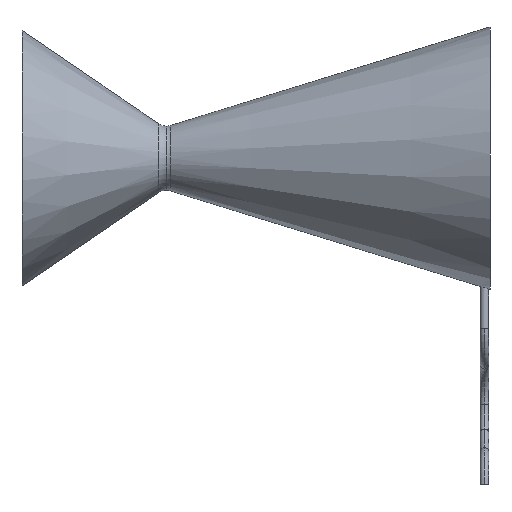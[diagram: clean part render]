
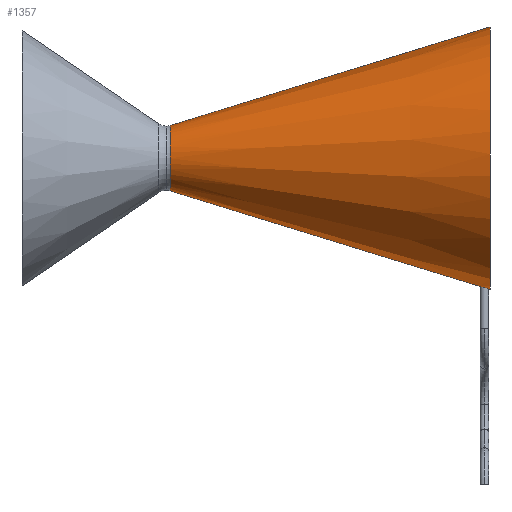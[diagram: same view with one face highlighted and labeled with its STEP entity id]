
A CAD part, left-side view. The second image highlights one B-rep face of the part: STEP entity #1357.
In plain terms, the highlighted conical face has half-angle 17.121 degrees and reference radius 92.5 mm.
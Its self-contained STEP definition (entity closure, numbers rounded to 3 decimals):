
#22 = ORIENTED_EDGE ( 'NONE', *, *, #296, .T. ) ;
#31 = AXIS2_PLACEMENT_3D ( 'NONE', #2132, #2148, #1976 ) ;
#32 = EDGE_LOOP ( 'NONE', ( #1075, #824, #908, #2122, #840, #22, #2149 ) ) ;
#73 = CARTESIAN_POINT ( 'NONE',  ( -4.061, 1.495, -91.95 ) ) ;
#97 = CARTESIAN_POINT ( 'NONE',  ( -3.805, 5.262, -90.799 ) ) ;
#113 = CARTESIAN_POINT ( 'NONE',  ( -4., 4., -91.18 ) ) ;
#118 = CARTESIAN_POINT ( 'NONE',  ( -4.661, 0.509, -92.226 ) ) ;
#122 = CARTESIAN_POINT ( 'NONE',  ( 0., 225.393, 23.069 ) ) ;
#241 = VERTEX_POINT ( 'NONE', #1912 ) ;
#277 = CARTESIAN_POINT ( 'NONE',  ( -5.097, 0.21, -92.295 ) ) ;
#296 = EDGE_CURVE ( 'NONE', #1125, #804, #2142, .T. ) ;
#317 = EDGE_CURVE ( 'NONE', #1125, #241, #2058, .T. ) ;
#349 = LINE ( 'NONE', #1606, #1016 ) ;
#397 = CARTESIAN_POINT ( 'NONE',  ( -4., 1.871, -91.836 ) ) ;
#407 = CARTESIAN_POINT ( 'NONE',  ( -4.194, 1.131, -92.056 ) ) ;
#446 = CARTESIAN_POINT ( 'NONE',  ( -4.395, 0.8, -92.149 ) ) ;
#454 = EDGE_CURVE ( 'NONE', #1677, #804, #622, .T. ) ;
#487 = CARTESIAN_POINT ( 'NONE',  ( 0., 8., -90.036 ) ) ;
#500 = AXIS2_PLACEMENT_3D ( 'NONE', #1633, #789, #1094 ) ;
#566 = CARTESIAN_POINT ( 'NONE',  ( -1.06, 7.866, -90.071 ) ) ;
#594 = CARTESIAN_POINT ( 'NONE',  ( -0.266, 8., -90.036 ) ) ;
#598 = CARTESIAN_POINT ( 'NONE',  ( 0., 0., 92.5 ) ) ;
#618 = DIRECTION ( 'NONE',  ( 0., 0., -1. ) ) ;
#622 = CIRCLE ( 'NONE', #31, 92.5 ) ;
#669 = EDGE_CURVE ( 'NONE', #1010, #1677, #812, .T. ) ;
#729 = VERTEX_POINT ( 'NONE', #487 ) ;
#741 = CARTESIAN_POINT ( 'NONE',  ( -4., 4.258, -91.101 ) ) ;
#742 = CARTESIAN_POINT ( 'NONE',  ( -4., 2., -91.797 ) ) ;
#749 = CARTESIAN_POINT ( 'NONE',  ( -2.038, 7.452, -90.182 ) ) ;
#758 = CARTESIAN_POINT ( 'NONE',  ( -3.975, 4.512, -91.023 ) ) ;
#770 = CARTESIAN_POINT ( 'NONE',  ( -6., 0., -92.305 ) ) ;
#772 = VERTEX_POINT ( 'NONE', #1138 ) ;
#789 = DIRECTION ( 'NONE',  ( 0., -1., 0. ) ) ;
#804 = VERTEX_POINT ( 'NONE', #1755 ) ;
#812 = LINE ( 'NONE', #598, #1314 ) ;
#816 = CARTESIAN_POINT ( 'NONE',  ( -4., 2., -91.797 ) ) ;
#824 = ORIENTED_EDGE ( 'NONE', *, *, #1745, .T. ) ;
#840 = ORIENTED_EDGE ( 'NONE', *, *, #317, .F. ) ;
#892 = CARTESIAN_POINT ( 'NONE',  ( -2.474, 7.154, -90.263 ) ) ;
#908 = ORIENTED_EDGE ( 'NONE', *, *, #1771, .T. ) ;
#921 = DIRECTION ( 'NONE',  ( 0., -0.956, -0.294 ) ) ;
#957 = CIRCLE ( 'NONE', #500, 23.069 ) ;
#1010 = VERTEX_POINT ( 'NONE', #122 ) ;
#1016 = VECTOR ( 'NONE', #921, 1000. ) ;
#1060 = CARTESIAN_POINT ( 'NONE',  ( -4.012, 1.745, -91.875 ) ) ;
#1063 = CARTESIAN_POINT ( 'NONE',  ( -1.314, 7.787, -90.092 ) ) ;
#1070 = CONICAL_SURFACE ( 'NONE', #2129, 92.5, 0.299 ) ;
#1075 = ORIENTED_EDGE ( 'NONE', *, *, #669, .F. ) ;
#1086 = CARTESIAN_POINT ( 'NONE',  ( -4.254, 1.017, -92.089 ) ) ;
#1094 = DIRECTION ( 'NONE',  ( 0., 0., -1. ) ) ;
#1121 = CARTESIAN_POINT ( 'NONE',  ( 0., 0., 0. ) ) ;
#1125 = VERTEX_POINT ( 'NONE', #816 ) ;
#1138 = CARTESIAN_POINT ( 'NONE',  ( 0., 225.393, -23.069 ) ) ;
#1223 = CARTESIAN_POINT ( 'NONE',  ( 0., 0., 92.5 ) ) ;
#1236 = CARTESIAN_POINT ( 'NONE',  ( -0.533, 7.973, -90.043 ) ) ;
#1249 = EDGE_CURVE ( 'NONE', #241, #729, #1265, .T. ) ;
#1254 = CARTESIAN_POINT ( 'NONE',  ( -1.802, 7.581, -90.147 ) ) ;
#1265 = B_SPLINE_CURVE_WITH_KNOTS ( 'NONE', 3,
 ( #2086, #741, #758, #1588, #97, #1767, #1565, #1757, #1918, #1742, #892, #749, #1254, #1063, #566, #1236, #594, #1938 ),
 .UNSPECIFIED., .F., .F.,
 ( 4, 2, 2, 2, 2, 2, 2, 2, 4 ),
 ( 0., 0.001, 0.002, 0.002, 0.003, 0.004, 0.005, 0.006, 0.006 ),
 .UNSPECIFIED. ) ;
#1271 = CARTESIAN_POINT ( 'NONE',  ( -5.731, 0., -92.323 ) ) ;
#1285 = FACE_OUTER_BOUND ( 'NONE', #32, .T. ) ;
#1314 = VECTOR ( 'NONE', #1914, 1000. ) ;
#1357 = ADVANCED_FACE ( 'NONE', ( #1285 ), #1070, .T. ) ;
#1444 = CARTESIAN_POINT ( 'NONE',  ( -4.979, 0.275, -92.281 ) ) ;
#1546 = CARTESIAN_POINT ( 'NONE',  ( -4., 2., -91.797 ) ) ;
#1559 = CARTESIAN_POINT ( 'NONE',  ( -4.097, 1.37, -91.987 ) ) ;
#1565 = CARTESIAN_POINT ( 'NONE',  ( -3.491, 5.97, -90.594 ) ) ;
#1588 = CARTESIAN_POINT ( 'NONE',  ( -3.878, 5.013, -90.873 ) ) ;
#1606 = CARTESIAN_POINT ( 'NONE',  ( 0., 0., -92.5 ) ) ;
#1633 = CARTESIAN_POINT ( 'NONE',  ( 0., 225.393, 0. ) ) ;
#1677 = VERTEX_POINT ( 'NONE', #1223 ) ;
#1742 = CARTESIAN_POINT ( 'NONE',  ( -2.675, 6.986, -90.309 ) ) ;
#1745 = EDGE_CURVE ( 'NONE', #1010, #772, #957, .T. ) ;
#1755 = CARTESIAN_POINT ( 'NONE',  ( -6., 0., -92.305 ) ) ;
#1757 = CARTESIAN_POINT ( 'NONE',  ( -3.208, 6.404, -90.471 ) ) ;
#1767 = CARTESIAN_POINT ( 'NONE',  ( -3.61, 5.742, -90.659 ) ) ;
#1769 = CARTESIAN_POINT ( 'NONE',  ( -4.761, 0.425, -92.247 ) ) ;
#1771 = EDGE_CURVE ( 'NONE', #772, #729, #349, .T. ) ;
#1799 = DIRECTION ( 'NONE',  ( 0., -1., 0. ) ) ;
#1912 = CARTESIAN_POINT ( 'NONE',  ( -4., 4., -91.18 ) ) ;
#1914 = DIRECTION ( 'NONE',  ( 0., -0.956, 0.294 ) ) ;
#1918 = CARTESIAN_POINT ( 'NONE',  ( -3.041, 6.611, -90.413 ) ) ;
#1938 = CARTESIAN_POINT ( 'NONE',  ( 0., 8., -90.036 ) ) ;
#1952 = CARTESIAN_POINT ( 'NONE',  ( -5.463, 0.055, -92.322 ) ) ;
#1976 = DIRECTION ( 'NONE',  ( 0., 0., -1. ) ) ;
#2058 = B_SPLINE_CURVE_WITH_KNOTS ( 'NONE', 3,
 ( #742, #2107, #2093, #113 ),
 .UNSPECIFIED., .F., .F.,
 ( 4, 4 ),
 ( 0.137, 0.139 ),
 .UNSPECIFIED. ) ;
#2086 = CARTESIAN_POINT ( 'NONE',  ( -4., 4., -91.18 ) ) ;
#2093 = CARTESIAN_POINT ( 'NONE',  ( -4., 3.333, -91.386 ) ) ;
#2099 = CARTESIAN_POINT ( 'NONE',  ( -4.478, 0.696, -92.177 ) ) ;
#2107 = CARTESIAN_POINT ( 'NONE',  ( -4., 2.667, -91.591 ) ) ;
#2122 = ORIENTED_EDGE ( 'NONE', *, *, #1249, .F. ) ;
#2129 = AXIS2_PLACEMENT_3D ( 'NONE', #1121, #1799, #618 ) ;
#2132 = CARTESIAN_POINT ( 'NONE',  ( 0., 0., 0. ) ) ;
#2142 = B_SPLINE_CURVE_WITH_KNOTS ( 'NONE', 3,
 ( #1546, #397, #1060, #73, #1559, #407, #1086, #446, #2099, #118, #1769, #1444, #277, #1952, #1271, #770 ),
 .UNSPECIFIED., .F., .F.,
 ( 4, 2, 2, 2, 2, 2, 2, 4 ),
 ( 0., 0., 0.001, 0.001, 0.002, 0.002, 0.002, 0.003 ),
 .UNSPECIFIED. ) ;
#2148 = DIRECTION ( 'NONE',  ( 0., -1., 0. ) ) ;
#2149 = ORIENTED_EDGE ( 'NONE', *, *, #454, .F. ) ;
